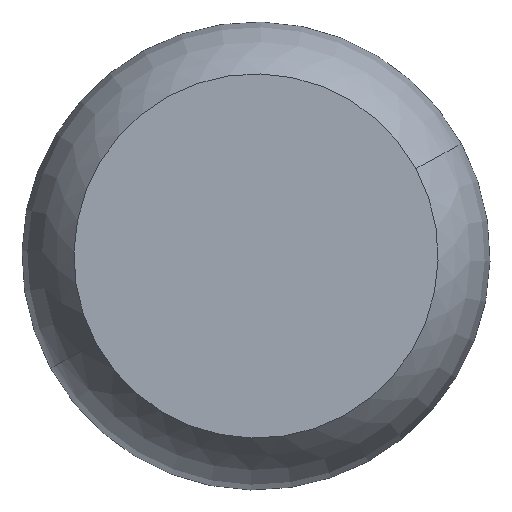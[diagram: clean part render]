
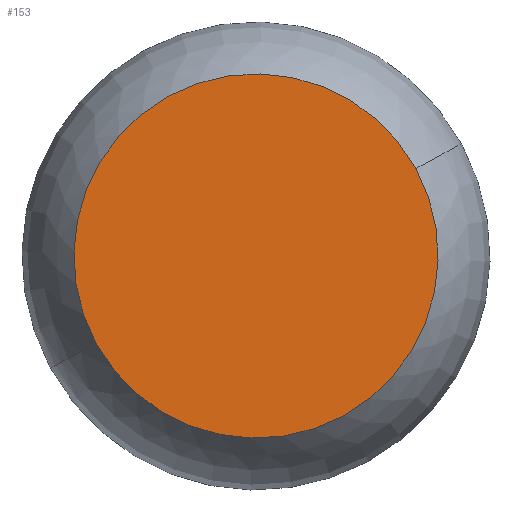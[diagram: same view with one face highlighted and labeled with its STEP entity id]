
A CAD part, front view. The second image highlights one B-rep face of the part: STEP entity #153.
In plain terms, the highlighted planar face has unit normal (0, -1, 0).
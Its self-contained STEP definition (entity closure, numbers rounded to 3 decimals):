
#66=CARTESIAN_POINT('Axis2P3D Location',(0.,0.,0.)) ;
#70=CARTESIAN_POINT('Vertex',(105.31,0.,57.531)) ;
#72=CARTESIAN_POINT('Vertex',(-105.31,0.,-57.531)) ;
#127=CARTESIAN_POINT('Axis2P3D Location',(0.,0.,0.)) ;
#144=CARTESIAN_POINT('Axis2P3D Location',(0.,0.,0.)) ;
#67=DIRECTION('Axis2P3D Direction',(0.,-1.,0.)) ;
#128=DIRECTION('Axis2P3D Direction',(0.,-1.,0.)) ;
#145=DIRECTION('Axis2P3D Direction',(0.,-1.,0.)) ;
#146=DIRECTION('Axis2P3D XDirection',(1.,0.,0.)) ;
#68=AXIS2_PLACEMENT_3D('Circle Axis2P3D',#66,#67,$) ;
#129=AXIS2_PLACEMENT_3D('Circle Axis2P3D',#127,#128,$) ;
#147=AXIS2_PLACEMENT_3D('Plane Axis2P3D',#144,#145,#146) ;
#150=ORIENTED_EDGE('',*,*,#74,.T.) ;
#151=ORIENTED_EDGE('',*,*,#131,.T.) ;
#153=ADVANCED_FACE('PartBody',(#152),#148,.T.) ;
#69=CIRCLE('generated circle',#68,120.) ;
#130=CIRCLE('generated circle',#129,120.) ;
#74=EDGE_CURVE('',#71,#73,#69,.T.) ;
#131=EDGE_CURVE('',#73,#71,#130,.T.) ;
#149=EDGE_LOOP('',(#150,#151)) ;
#152=FACE_OUTER_BOUND('',#149,.T.) ;
#148=PLANE('',#147) ;
#71=VERTEX_POINT('',#70) ;
#73=VERTEX_POINT('',#72) ;
